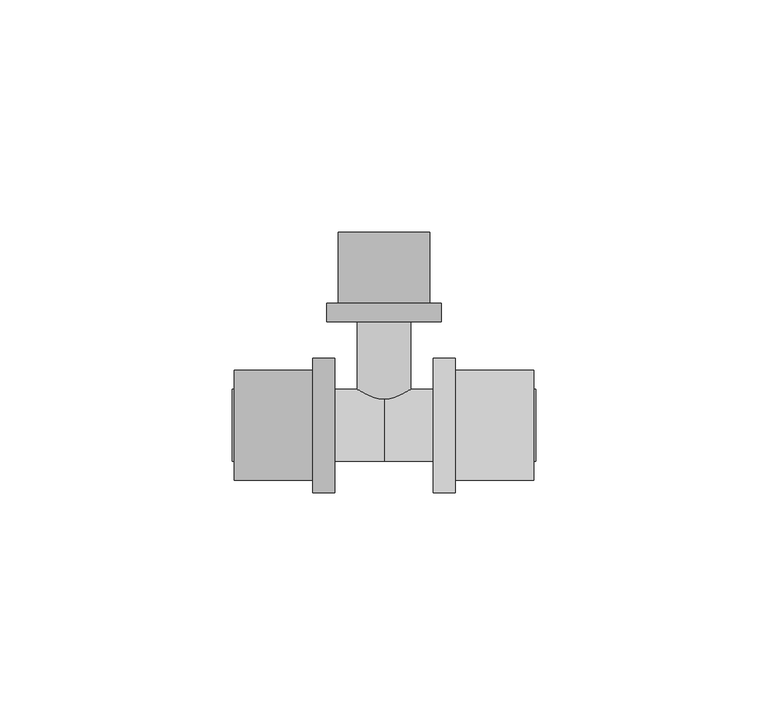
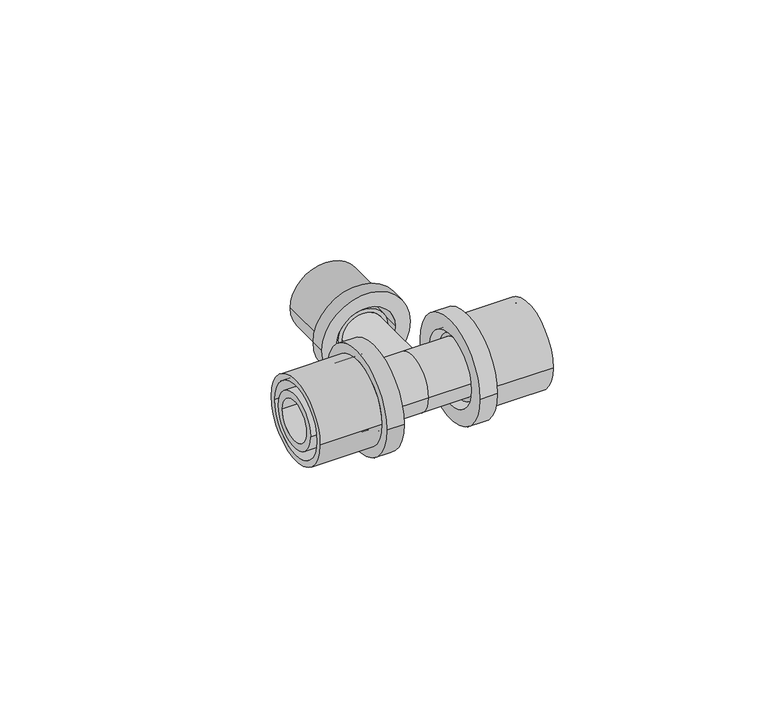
"""IFC4 building model written with IfcOpenShell, lengths in millimetres: pipe fitting geometry, FASTLOC_T-piece_EX+ : FSL T-Piece EX+ AT."""

from ifc_helpers import new_model, si_unit, frame, origin, place, context, project, spatial, polyline, circle_curve, source, transform, mapped, element, save
from ifc_brep_helpers import plane_surface, cylinder_surface, revolved_surface, advanced_brep


def pipe_fitting_b8b68d19(model_context):
    return source(origin(), model_context, "Body", "AdvancedBrep", [
        advanced_brep(
        [(15.3, 14.5, 0.0), (15.3, -14.5, 0.0), (10.6, -14.5, 0.0), (10.6, 14.5, 0.0), (32.3, 11.85, 0.0), (32.3, -11.85, 0.0), (15.3, -11.85, 0.0), (15.3, 11.85, 0.0), (10.6, 10.15, 0.0), (10.6, -10.15, 0.0), (32.3, -10.15, 0.0), (32.3, 10.15, 0.0)],
        [
            (0, 1, circle_curve(frame((15.3, 0.0, 0.0), z_axis=(-1.0, 0.0, 0.0), x_axis=(0.0, -1.0, 0.0)), 14.5)),
            (1, 2),
            (2, 3, circle_curve(frame((10.6, 0.0, 0.0), z_axis=(1.0, 0.0, 0.0), x_axis=(0.0, -1.0, 0.0)), 14.5)),
            (3, 0),
            (4, 5, circle_curve(frame((32.3, 0.0, 0.0), z_axis=(-1.0, 0.0, 0.0), x_axis=(0.0, -1.0, 0.0)), 11.85)),
            (5, 6),
            (6, 7, circle_curve(frame((15.3, 0.0, 0.0), z_axis=(1.0, 0.0, 0.0), x_axis=(0.0, -1.0, 0.0)), 11.85)),
            (7, 4),
            (8, 9, circle_curve(frame((10.6, 0.0, 0.0), z_axis=(-1.0, 0.0, 0.0), x_axis=(0.0, -1.0, 0.0)), 10.15)),
            (9, 10),
            (10, 11, circle_curve(frame((32.3, 0.0, 0.0), z_axis=(1.0, 0.0, 0.0), x_axis=(0.0, -1.0, 0.0)), 10.15)),
            (11, 8),
            (1, 0, circle_curve(frame((15.3, 0.0, 0.0), z_axis=(-1.0, 0.0, 0.0), x_axis=(0.0, 1.0, 0.0)), 14.5)),
            (3, 2, circle_curve(frame((10.6, 0.0, 0.0), z_axis=(1.0, 0.0, 0.0), x_axis=(0.0, 1.0, 0.0)), 14.5)),
            (6, 7, circle_curve(frame((15.3, 0.0, 0.0), z_axis=(-1.0, 0.0, 0.0), x_axis=(0.0, 1.0, 0.0)), 11.85)),
            (5, 4, circle_curve(frame((32.3, 0.0, 0.0), z_axis=(-1.0, 0.0, 0.0), x_axis=(0.0, 1.0, 0.0)), 11.85)),
            (10, 11, circle_curve(frame((32.3, 0.0, 0.0), z_axis=(-1.0, 0.0, 0.0), x_axis=(0.0, 1.0, 0.0)), 10.15)),
            (9, 8, circle_curve(frame((10.6, 0.0, 0.0), z_axis=(-1.0, 0.0, 0.0), x_axis=(0.0, 1.0, 0.0)), 10.15)),
        ],
        [
            cylinder_surface(frame((10.6, 0.0, 0.0), z_axis=(1.0, 0.0, 0.0), x_axis=(0.0, -1.0, 0.0)), 14.5),
            cylinder_surface(frame((10.6, 0.0, 0.0), z_axis=(1.0, 0.0, 0.0), x_axis=(0.0, -1.0, 0.0)), 11.85),
            revolved_surface(polyline([(32.3, -10.15, 0.0), (10.6, -10.15, 0.0)]), (10.6, 0.0, 0.0), (1.0, 0.0, 0.0)),
            cylinder_surface(frame((10.6, 0.0, 0.0), z_axis=(1.0, 0.0, 0.0), x_axis=(0.0, 1.0, 0.0)), 14.5),
            plane_surface(frame((15.3, 0.0, 0.0), z_axis=(1.0, 0.0, 0.0), x_axis=(0.0, 1.0, 0.0))),
            cylinder_surface(frame((10.6, 0.0, 0.0), z_axis=(1.0, 0.0, 0.0), x_axis=(0.0, 1.0, 0.0)), 11.85),
            plane_surface(frame((32.3, 0.0, 0.0), z_axis=(1.0, 0.0, 0.0), x_axis=(0.0, 1.0, 0.0))),
            revolved_surface(polyline([(32.3, 10.15, 0.0), (10.6, 10.15, 0.0)]), (10.6, 0.0, 0.0), (1.0, 0.0, 0.0)),
            plane_surface(frame((10.6, 0.0, 0.0), z_axis=(-1.0, 0.0, 0.0), x_axis=(0.0, 1.0, 0.0))),
        ],
        [
            (0, [[1, 2, 3, 4]]),
            (1, [[5, 6, 7, 8]]),
            (2, [[9, 10, 11, 12]]),
            (3, [[13, -4, 14, -2]]),
            (4, [[-13, -1], [15, -7]]),
            (5, [[16, -8, -15, -6]]),
            (6, [[-16, -5], [17, -11]]),
            (7, [[18, -12, -17, -10]]),
            (8, [[-14, -3], [-18, -9]]),
        ],
    ),
        advanced_brep(
        [(-15.3, -14.5, 0.0), (-15.3, 14.5, 0.0), (-10.6, 14.5, 0.0), (-10.6, -14.5, 0.0), (-32.3, -11.85, 0.0), (-32.3, 11.85, 0.0), (-15.3, 11.85, 0.0), (-15.3, -11.85, 0.0), (-10.6, -10.15, 0.0), (-10.6, 10.15, 0.0), (-32.3, 10.15, 0.0), (-32.3, -10.15, 0.0)],
        [
            (0, 1, circle_curve(frame((-15.3, 0.0, 0.0), z_axis=(1.0, 0.0, 0.0), x_axis=(0.0, 1.0, 0.0)), 14.5)),
            (1, 2),
            (2, 3, circle_curve(frame((-10.6, 0.0, 0.0), z_axis=(-1.0, 0.0, 0.0), x_axis=(0.0, 1.0, 0.0)), 14.5)),
            (3, 0),
            (4, 5, circle_curve(frame((-32.3, 0.0, 0.0), z_axis=(1.0, 0.0, 0.0), x_axis=(0.0, 1.0, 0.0)), 11.85)),
            (5, 6),
            (6, 7, circle_curve(frame((-15.3, 0.0, 0.0), z_axis=(-1.0, 0.0, 0.0), x_axis=(0.0, 1.0, 0.0)), 11.85)),
            (7, 4),
            (8, 9, circle_curve(frame((-10.6, 0.0, 0.0), z_axis=(1.0, 0.0, 0.0), x_axis=(0.0, 1.0, 0.0)), 10.15)),
            (9, 10),
            (10, 11, circle_curve(frame((-32.3, 0.0, 0.0), z_axis=(-1.0, 0.0, 0.0), x_axis=(0.0, 1.0, 0.0)), 10.15)),
            (11, 8),
            (1, 0, circle_curve(frame((-15.3, 0.0, 0.0), z_axis=(1.0, 0.0, 0.0), x_axis=(0.0, -1.0, 0.0)), 14.5)),
            (3, 2, circle_curve(frame((-10.6, 0.0, 0.0), z_axis=(-1.0, 0.0, 0.0), x_axis=(0.0, -1.0, 0.0)), 14.5)),
            (6, 7, circle_curve(frame((-15.3, 0.0, 0.0), z_axis=(1.0, 0.0, 0.0), x_axis=(0.0, -1.0, 0.0)), 11.85)),
            (5, 4, circle_curve(frame((-32.3, 0.0, 0.0), z_axis=(1.0, 0.0, 0.0), x_axis=(0.0, -1.0, 0.0)), 11.85)),
            (10, 11, circle_curve(frame((-32.3, 0.0, 0.0), z_axis=(1.0, 0.0, 0.0), x_axis=(0.0, -1.0, 0.0)), 10.15)),
            (9, 8, circle_curve(frame((-10.6, 0.0, 0.0), z_axis=(1.0, 0.0, 0.0), x_axis=(0.0, -1.0, 0.0)), 10.15)),
        ],
        [
            cylinder_surface(frame((-10.6, 0.0, 0.0), z_axis=(-1.0, 0.0, 0.0), x_axis=(0.0, 1.0, 0.0)), 14.5),
            cylinder_surface(frame((-10.6, 0.0, 0.0), z_axis=(-1.0, 0.0, 0.0), x_axis=(0.0, 1.0, 0.0)), 11.85),
            revolved_surface(polyline([(-32.3, 10.15, 0.0), (-10.6, 10.15, 0.0)]), (-10.6, 0.0, 0.0), (-1.0, 0.0, 0.0)),
            cylinder_surface(frame((-10.6, 0.0, 0.0), z_axis=(-1.0, 0.0, 0.0), x_axis=(0.0, -1.0, 0.0)), 14.5),
            plane_surface(frame((-15.3, 0.0, 0.0), z_axis=(-1.0, 0.0, 0.0), x_axis=(0.0, -1.0, 0.0))),
            cylinder_surface(frame((-10.6, 0.0, 0.0), z_axis=(-1.0, 0.0, 0.0), x_axis=(0.0, -1.0, 0.0)), 11.85),
            plane_surface(frame((-32.3, 0.0, 0.0), z_axis=(-1.0, 0.0, 0.0), x_axis=(0.0, -1.0, 0.0))),
            revolved_surface(polyline([(-32.3, -10.15, 0.0), (-10.6, -10.15, 0.0)]), (-10.6, 0.0, 0.0), (-1.0, 0.0, 0.0)),
            plane_surface(frame((-10.6, 0.0, 0.0), z_axis=(1.0, 0.0, 0.0), x_axis=(0.0, -1.0, 0.0))),
        ],
        [
            (0, [[1, 2, 3, 4]]),
            (1, [[5, 6, 7, 8]]),
            (2, [[9, 10, 11, 12]]),
            (3, [[13, -4, 14, -2]]),
            (4, [[-13, -1], [15, -7]]),
            (5, [[16, -8, -15, -6]]),
            (6, [[-16, -5], [17, -11]]),
            (7, [[18, -12, -17, -10]]),
            (8, [[-14, -3], [-18, -9]]),
        ],
    ),
        advanced_brep(
        [(-12.35, 26.3, 0.0), (12.35, 26.3, 0.0), (12.35, 22.3, 0.0), (-12.35, 22.3, 0.0), (-9.85, 41.6, 0.0), (9.85, 41.6, 0.0), (9.85, 26.3, 0.0), (-9.85, 26.3, 0.0), (-8.15, 22.3, 0.0), (8.15, 22.3, 0.0), (8.15, 41.6, 0.0), (-8.15, 41.6, 0.0)],
        [
            (0, 1, circle_curve(frame((0.0, 26.3, 0.0), z_axis=(0.0, -1.0, 0.0), x_axis=(1.0, 0.0, 0.0)), 12.35)),
            (1, 2),
            (2, 3, circle_curve(frame((0.0, 22.3, 0.0), z_axis=(0.0, 1.0, 0.0), x_axis=(1.0, 0.0, 0.0)), 12.35)),
            (3, 0),
            (4, 5, circle_curve(frame((0.0, 41.6, 0.0), z_axis=(0.0, -1.0, 0.0), x_axis=(1.0, 0.0, 0.0)), 9.85)),
            (5, 6),
            (6, 7, circle_curve(frame((0.0, 26.3, 0.0), z_axis=(0.0, 1.0, 0.0), x_axis=(1.0, 0.0, 0.0)), 9.85)),
            (7, 4),
            (8, 9, circle_curve(frame((0.0, 22.3, 0.0), z_axis=(0.0, -1.0, 0.0), x_axis=(1.0, 0.0, 0.0)), 8.15)),
            (9, 10),
            (10, 11, circle_curve(frame((0.0, 41.6, 0.0), z_axis=(0.0, 1.0, 0.0), x_axis=(1.0, 0.0, 0.0)), 8.15)),
            (11, 8),
            (1, 0, circle_curve(frame((0.0, 26.3, 0.0), z_axis=(0.0, -1.0, 0.0), x_axis=(-1.0, 0.0, 0.0)), 12.35)),
            (3, 2, circle_curve(frame((0.0, 22.3, 0.0), z_axis=(0.0, 1.0, 0.0), x_axis=(-1.0, 0.0, 0.0)), 12.35)),
            (6, 7, circle_curve(frame((0.0, 26.3, 0.0), z_axis=(0.0, -1.0, 0.0), x_axis=(-1.0, 0.0, 0.0)), 9.85)),
            (5, 4, circle_curve(frame((0.0, 41.6, 0.0), z_axis=(0.0, -1.0, 0.0), x_axis=(-1.0, 0.0, 0.0)), 9.85)),
            (10, 11, circle_curve(frame((0.0, 41.6, 0.0), z_axis=(0.0, -1.0, 0.0), x_axis=(-1.0, 0.0, 0.0)), 8.15)),
            (9, 8, circle_curve(frame((0.0, 22.3, 0.0), z_axis=(0.0, -1.0, 0.0), x_axis=(-1.0, 0.0, 0.0)), 8.15)),
        ],
        [
            cylinder_surface(frame((0.0, 22.3, 0.0), z_axis=(0.0, 1.0, 0.0), x_axis=(1.0, 0.0, 0.0)), 12.35),
            cylinder_surface(frame((0.0, 22.3, 0.0), z_axis=(0.0, 1.0, 0.0), x_axis=(1.0, 0.0, 0.0)), 9.85),
            revolved_surface(polyline([(8.15, 41.6, 0.0), (8.15, 22.3, 0.0)]), (0.0, 22.3, 0.0), (0.0, 1.0, 0.0)),
            cylinder_surface(frame((0.0, 22.3, 0.0), z_axis=(0.0, 1.0, 0.0), x_axis=(-1.0, 0.0, 0.0)), 12.35),
            plane_surface(frame((0.0, 26.3, 0.0), z_axis=(0.0, 1.0, 0.0), x_axis=(-1.0, 0.0, 0.0))),
            cylinder_surface(frame((0.0, 22.3, 0.0), z_axis=(0.0, 1.0, 0.0), x_axis=(-1.0, 0.0, 0.0)), 9.85),
            plane_surface(frame((0.0, 41.6, 0.0), z_axis=(0.0, 1.0, 0.0), x_axis=(-1.0, 0.0, 0.0))),
            revolved_surface(polyline([(-8.15, 41.6, 0.0), (-8.15, 22.3, 0.0)]), (0.0, 22.3, 0.0), (0.0, 1.0, 0.0)),
            plane_surface(frame((0.0, 22.3, 0.0), z_axis=(0.0, -1.0, 0.0), x_axis=(-1.0, 0.0, 0.0))),
        ],
        [
            (0, [[1, 2, 3, 4]]),
            (1, [[5, 6, 7, 8]]),
            (2, [[9, 10, 11, 12]]),
            (3, [[13, -4, 14, -2]]),
            (4, [[-13, -1], [15, -7]]),
            (5, [[16, -8, -15, -6]]),
            (6, [[-16, -5], [17, -11]]),
            (7, [[18, -12, -17, -10]]),
            (8, [[-14, -3], [-18, -9]]),
        ],
    ),
        advanced_brep(
        [(0.0, 7.75, 0.0), (0.0, -7.75, 0.0), (-12.63, -7.75, 0.0), (-12.63, 7.75, 0.0), (12.63, 7.75, 0.0), (12.63, -7.75, 0.0), (15.3, 8.8, 0.0), (15.3, -8.8, 0.0), (12.63, -8.8, 0.0), (12.63, 8.8, 0.0), (32.7, 7.75, 0.0), (32.7, -7.75, 0.0), (15.3, -7.75, 0.0), (15.3, 7.75, 0.0), (-32.7, 5.75, 0.0), (-32.7, -5.75, 0.0), (32.7, -5.75, 0.0), (32.7, 5.75, 0.0), (-15.3, 7.75, 0.0), (-15.3, -7.75, 0.0), (-32.7, -7.75, 0.0), (-32.7, 7.75, 0.0), (-12.63, 8.8, 0.0), (-12.63, -8.8, 0.0), (-15.3, -8.8, 0.0), (-15.3, 8.8, 0.0)],
        [
            (0, 1, circle_curve(frame((0.0, 0.0, 0.0), z_axis=(-1.0, 0.0, 0.0), x_axis=(0.0, -1.0, 0.0)), 7.75)),
            (1, 2),
            (2, 3, circle_curve(frame((-12.63, 0.0, 0.0), z_axis=(1.0, 0.0, 0.0), x_axis=(0.0, -1.0, 0.0)), 7.75)),
            (3, 0),
            (4, 5, circle_curve(frame((12.63, 0.0, 0.0), z_axis=(-1.0, 0.0, 0.0), x_axis=(0.0, -1.0, 0.0)), 7.75)),
            (5, 1),
            (0, 4),
            (6, 7, circle_curve(frame((15.3, 0.0, 0.0), z_axis=(-1.0, 0.0, 0.0), x_axis=(0.0, -1.0, 0.0)), 8.8)),
            (7, 8),
            (8, 9, circle_curve(frame((12.63, 0.0, 0.0), z_axis=(1.0, 0.0, 0.0), x_axis=(0.0, -1.0, 0.0)), 8.8)),
            (9, 6),
            (10, 11, circle_curve(frame((32.7, 0.0, 0.0), z_axis=(-1.0, 0.0, 0.0), x_axis=(0.0, -1.0, 0.0)), 7.75)),
            (11, 12),
            (12, 13, circle_curve(frame((15.3, 0.0, 0.0), z_axis=(1.0, 0.0, 0.0), x_axis=(0.0, -1.0, 0.0)), 7.75)),
            (13, 10),
            (14, 15, circle_curve(frame((-32.7, 0.0, 0.0), z_axis=(-1.0, 0.0, 0.0), x_axis=(0.0, -1.0, 0.0)), 5.75)),
            (15, 16),
            (16, 17, circle_curve(frame((32.7, 0.0, 0.0), z_axis=(1.0, 0.0, 0.0), x_axis=(0.0, -1.0, 0.0)), 5.75)),
            (17, 14),
            (18, 19, circle_curve(frame((-15.3, 0.0, 0.0), z_axis=(-1.0, 0.0, 0.0), x_axis=(0.0, -1.0, 0.0)), 7.75)),
            (19, 20),
            (20, 21, circle_curve(frame((-32.7, 0.0, 0.0), z_axis=(1.0, 0.0, 0.0), x_axis=(0.0, -1.0, 0.0)), 7.75)),
            (21, 18),
            (22, 23, circle_curve(frame((-12.63, 0.0, 0.0), z_axis=(-1.0, 0.0, 0.0), x_axis=(0.0, -1.0, 0.0)), 8.8)),
            (23, 24),
            (24, 25, circle_curve(frame((-15.3, 0.0, 0.0), z_axis=(1.0, 0.0, 0.0), x_axis=(0.0, -1.0, 0.0)), 8.8)),
            (25, 22),
            (22, 23, circle_curve(frame((-12.63, 0.0, 0.0), z_axis=(1.0, 0.0, 0.0), x_axis=(0.0, 1.0, 0.0)), 8.8)),
            (2, 3, circle_curve(frame((-12.63, 0.0, 0.0), z_axis=(-1.0, 0.0, 0.0), x_axis=(0.0, 1.0, 0.0)), 7.75)),
            (1, 0, circle_curve(frame((0.0, 0.0, 0.0), z_axis=(-1.0, 0.0, 0.0), x_axis=(0.0, 1.0, 0.0)), 7.75)),
            (5, 4, circle_curve(frame((12.63, 0.0, 0.0), z_axis=(-1.0, 0.0, 0.0), x_axis=(0.0, 1.0, 0.0)), 7.75)),
            (8, 9, circle_curve(frame((12.63, 0.0, 0.0), z_axis=(-1.0, 0.0, 0.0), x_axis=(0.0, 1.0, 0.0)), 8.8)),
            (7, 6, circle_curve(frame((15.3, 0.0, 0.0), z_axis=(-1.0, 0.0, 0.0), x_axis=(0.0, 1.0, 0.0)), 8.8)),
            (12, 13, circle_curve(frame((15.3, 0.0, 0.0), z_axis=(-1.0, 0.0, 0.0), x_axis=(0.0, 1.0, 0.0)), 7.75)),
            (11, 10, circle_curve(frame((32.7, 0.0, 0.0), z_axis=(-1.0, 0.0, 0.0), x_axis=(0.0, 1.0, 0.0)), 7.75)),
            (16, 17, circle_curve(frame((32.7, 0.0, 0.0), z_axis=(-1.0, 0.0, 0.0), x_axis=(0.0, 1.0, 0.0)), 5.75)),
            (15, 14, circle_curve(frame((-32.7, 0.0, 0.0), z_axis=(-1.0, 0.0, 0.0), x_axis=(0.0, 1.0, 0.0)), 5.75)),
            (20, 21, circle_curve(frame((-32.7, 0.0, 0.0), z_axis=(-1.0, 0.0, 0.0), x_axis=(0.0, 1.0, 0.0)), 7.75)),
            (19, 18, circle_curve(frame((-15.3, 0.0, 0.0), z_axis=(-1.0, 0.0, 0.0), x_axis=(0.0, 1.0, 0.0)), 7.75)),
            (24, 25, circle_curve(frame((-15.3, 0.0, 0.0), z_axis=(-1.0, 0.0, 0.0), x_axis=(0.0, 1.0, 0.0)), 8.8)),
        ],
        [
            cylinder_surface(frame((0.0, 0.0, 0.0), z_axis=(1.0, 0.0, 0.0), x_axis=(0.0, -1.0, 0.0)), 7.75),
            cylinder_surface(frame((0.0, 0.0, 0.0), z_axis=(1.0, 0.0, 0.0), x_axis=(0.0, -1.0, 0.0)), 8.8),
            revolved_surface(polyline([(32.7, -5.75, 0.0), (-32.7, -5.75, 0.0)]), (0.0, 0.0, 0.0), (1.0, 0.0, 0.0)),
            plane_surface(frame((-12.63, 0.0, 0.0), z_axis=(1.0, 0.0, 0.0), x_axis=(0.0, 1.0, 0.0))),
            cylinder_surface(frame((0.0, 0.0, 0.0), z_axis=(1.0, 0.0, 0.0), x_axis=(0.0, 1.0, 0.0)), 7.75),
            plane_surface(frame((12.63, 0.0, 0.0), z_axis=(-1.0, 0.0, 0.0), x_axis=(0.0, 1.0, 0.0))),
            cylinder_surface(frame((0.0, 0.0, 0.0), z_axis=(1.0, 0.0, 0.0), x_axis=(0.0, 1.0, 0.0)), 8.8),
            plane_surface(frame((15.3, 0.0, 0.0), z_axis=(1.0, 0.0, 0.0), x_axis=(0.0, 1.0, 0.0))),
            plane_surface(frame((32.7, 0.0, 0.0), z_axis=(1.0, 0.0, 0.0), x_axis=(0.0, 1.0, 0.0))),
            revolved_surface(polyline([(32.7, 5.75, 0.0), (-32.7, 5.75, 0.0)]), (0.0, 0.0, 0.0), (1.0, 0.0, 0.0)),
            plane_surface(frame((-32.7, 0.0, 0.0), z_axis=(-1.0, 0.0, 0.0), x_axis=(0.0, 1.0, 0.0))),
            plane_surface(frame((-15.3, 0.0, 0.0), z_axis=(-1.0, 0.0, 0.0), x_axis=(0.0, 1.0, 0.0))),
        ],
        [
            (0, [[1, 2, 3, 4]]),
            (0, [[5, 6, -1, 7]]),
            (1, [[8, 9, 10, 11]]),
            (0, [[12, 13, 14, 15]]),
            (2, [[16, 17, 18, 19]]),
            (0, [[20, 21, 22, 23]]),
            (1, [[24, 25, 26, 27]]),
            (3, [[28, -24], [29, -3]]),
            (4, [[30, -4, -29, -2]]),
            (4, [[31, -7, -30, -6]]),
            (5, [[32, -10], [-31, -5]]),
            (6, [[33, -11, -32, -9]]),
            (7, [[-33, -8], [34, -14]]),
            (4, [[35, -15, -34, -13]]),
            (8, [[-35, -12], [36, -18]]),
            (9, [[37, -19, -36, -17]]),
            (10, [[38, -22], [-37, -16]]),
            (4, [[39, -23, -38, -21]]),
            (11, [[40, -26], [-39, -20]]),
            (6, [[-28, -27, -40, -25]]),
        ],
    ),
        advanced_brep(
        [(3.95, 41.3, 0.0), (-3.95, 41.3, 0.0), (-3.95, 0.0, 0.0), (3.95, 0.0, 0.0), (5.8, 0.0, 0.0), (-5.8, 0.0, 0.0), (-5.8, 23.59, 0.0), (5.8, 23.59, 0.0), (6.9, 23.59, 0.0), (-6.9, 23.59, 0.0), (-6.9, 26.3, 0.0), (6.9, 26.3, 0.0), (5.8, 26.3, 0.0), (-5.8, 26.3, 0.0), (-5.8, 41.3, 0.0), (5.8, 41.3, 0.0)],
        [
            (0, 1, circle_curve(frame((0.0, 41.3, 0.0), z_axis=(0.0, 1.0, 0.0), x_axis=(-1.0, 0.0, 0.0)), 3.95)),
            (1, 2),
            (2, 3, circle_curve(frame((0.0, 0.0, 0.0), z_axis=(0.0, -1.0, 0.0), x_axis=(-1.0, 0.0, 0.0)), 3.95)),
            (3, 0),
            (4, 5, circle_curve(frame((0.0, 0.0, 0.0), z_axis=(0.0, 1.0, 0.0), x_axis=(-1.0, 0.0, 0.0)), 5.8)),
            (5, 6),
            (6, 7, circle_curve(frame((0.0, 23.59, 0.0), z_axis=(0.0, -1.0, 0.0), x_axis=(-1.0, 0.0, 0.0)), 5.8)),
            (7, 4),
            (8, 9, circle_curve(frame((0.0, 23.59, 0.0), z_axis=(0.0, 1.0, 0.0), x_axis=(-1.0, 0.0, 0.0)), 6.9)),
            (9, 10),
            (10, 11, circle_curve(frame((0.0, 26.3, 0.0), z_axis=(0.0, -1.0, 0.0), x_axis=(-1.0, 0.0, 0.0)), 6.9)),
            (11, 8),
            (12, 13, circle_curve(frame((0.0, 26.3, 0.0), z_axis=(0.0, 1.0, 0.0), x_axis=(-1.0, 0.0, 0.0)), 5.8)),
            (13, 14),
            (14, 15, circle_curve(frame((0.0, 41.3, 0.0), z_axis=(0.0, -1.0, 0.0), x_axis=(-1.0, 0.0, 0.0)), 5.8)),
            (15, 12),
            (1, 0, circle_curve(frame((0.0, 41.3, 0.0), z_axis=(0.0, 1.0, 0.0), x_axis=(1.0, 0.0, 0.0)), 3.95)),
            (3, 2, circle_curve(frame((0.0, 0.0, 0.0), z_axis=(0.0, -1.0, 0.0), x_axis=(1.0, 0.0, 0.0)), 3.95)),
            (4, 5, circle_curve(frame((0.0, 0.0, 0.0), z_axis=(0.0, -1.0, 0.0), x_axis=(1.0, 0.0, 0.0)), 5.8)),
            (7, 6, circle_curve(frame((0.0, 23.59, 0.0), z_axis=(0.0, -1.0, 0.0), x_axis=(1.0, 0.0, 0.0)), 5.8)),
            (8, 9, circle_curve(frame((0.0, 23.59, 0.0), z_axis=(0.0, -1.0, 0.0), x_axis=(1.0, 0.0, 0.0)), 6.9)),
            (11, 10, circle_curve(frame((0.0, 26.3, 0.0), z_axis=(0.0, -1.0, 0.0), x_axis=(1.0, 0.0, 0.0)), 6.9)),
            (12, 13, circle_curve(frame((0.0, 26.3, 0.0), z_axis=(0.0, -1.0, 0.0), x_axis=(1.0, 0.0, 0.0)), 5.8)),
            (15, 14, circle_curve(frame((0.0, 41.3, 0.0), z_axis=(0.0, -1.0, 0.0), x_axis=(1.0, 0.0, 0.0)), 5.8)),
        ],
        [
            revolved_surface(polyline([(-3.95, 0.0, 0.0), (-3.95, 41.3, 0.0)]), (0.0, 0.0, 0.0), (0.0, -1.0, 0.0)),
            cylinder_surface(frame((0.0, 0.0, 0.0), z_axis=(0.0, -1.0, 0.0), x_axis=(-1.0, 0.0, 0.0)), 5.8),
            cylinder_surface(frame((0.0, 0.0, 0.0), z_axis=(0.0, -1.0, 0.0), x_axis=(-1.0, 0.0, 0.0)), 6.9),
            revolved_surface(polyline([(3.95, 0.0, 0.0), (3.95, 41.3, 0.0)]), (0.0, 0.0, 0.0), (0.0, -1.0, 0.0)),
            plane_surface(frame((0.0, 0.0, 0.0), z_axis=(0.0, -1.0, 0.0), x_axis=(1.0, 0.0, 0.0))),
            cylinder_surface(frame((0.0, 0.0, 0.0), z_axis=(0.0, -1.0, 0.0), x_axis=(1.0, 0.0, 0.0)), 5.8),
            plane_surface(frame((0.0, 23.59, 0.0), z_axis=(0.0, -1.0, 0.0), x_axis=(1.0, 0.0, 0.0))),
            cylinder_surface(frame((0.0, 0.0, 0.0), z_axis=(0.0, -1.0, 0.0), x_axis=(1.0, 0.0, 0.0)), 6.9),
            plane_surface(frame((0.0, 26.3, 0.0), z_axis=(0.0, 1.0, 0.0), x_axis=(1.0, 0.0, 0.0))),
            plane_surface(frame((0.0, 41.3, 0.0), z_axis=(0.0, 1.0, 0.0), x_axis=(1.0, 0.0, 0.0))),
        ],
        [
            (0, [[1, 2, 3, 4]]),
            (1, [[5, 6, 7, 8]]),
            (2, [[9, 10, 11, 12]]),
            (1, [[13, 14, 15, 16]]),
            (3, [[17, -4, 18, -2]]),
            (4, [[19, -5], [-18, -3]]),
            (5, [[-19, -8, 20, -6]]),
            (6, [[21, -9], [-20, -7]]),
            (7, [[-21, -12, 22, -10]]),
            (8, [[-22, -11], [23, -13]]),
            (5, [[-23, -16, 24, -14]]),
            (9, [[-24, -15], [-17, -1]]),
        ],
    ),
    ])


if __name__ == "__main__":
    model = new_model("IFC4")
    model_context = context("Model", 3, world=origin())
    ifc_project = project(units=[si_unit("LENGTHUNIT", "METRE", prefix="MILLI")], contexts=[model_context])
    site = spatial("IfcSite", under=ifc_project)
    building = spatial("IfcBuilding", under=site)
    placement = place(None, origin())
    pipe_fitting_shape = pipe_fitting_b8b68d19(model_context)
    element("IfcPipeFitting", 1, ObjectType="FASTLOC_T-piece_EX+ : FSL T-Piece EX+ AT", at=placement, inside=building, context=model_context, shape_type="MappedRepresentation", body=[
        mapped(pipe_fitting_shape, transform((0.0, 0.0, 0.0), x_axis=(1.0, 0.0, 0.0), y_axis=(0.0, 1.0, 0.0), z_axis=(0.0, 0.0, 1.0))),
    ])
    save(model, "model.ifc")
